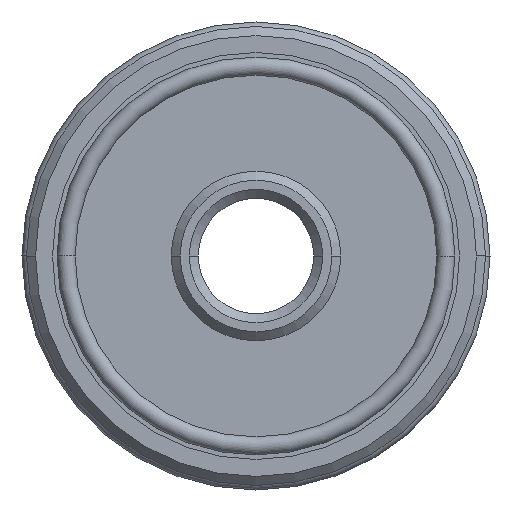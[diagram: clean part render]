
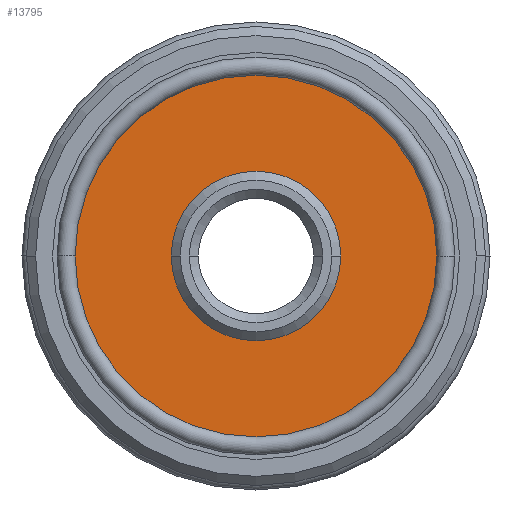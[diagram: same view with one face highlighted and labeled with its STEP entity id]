
A CAD part, left-side view. The second image highlights one B-rep face of the part: STEP entity #13795.
In plain terms, the highlighted planar face has unit normal (-1, 0, 0).
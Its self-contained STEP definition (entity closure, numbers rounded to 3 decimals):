
#13527 = EDGE_CURVE ( 'NONE', #13542, #13528, #19315, .T. ) ;
#13528 = VERTEX_POINT ( 'NONE', #19310 ) ;
#13542 = VERTEX_POINT ( 'NONE', #19340 ) ;
#13795 = ADVANCED_FACE ( 'NONE', ( #19962, #20008 ), #20007, .T. ) ;
#13796 = EDGE_LOOP ( 'NONE', ( #13797, #13852 ) ) ;
#13797 = ORIENTED_EDGE ( 'NONE', *, *, #13851, .F. ) ;
#13851 = EDGE_CURVE ( 'NONE', #13528, #13542, #20130, .T. ) ;
#13852 = ORIENTED_EDGE ( 'NONE', *, *, #13527, .F. ) ;
#13853 = EDGE_LOOP ( 'NONE', ( #13854, #13855 ) ) ;
#13854 = ORIENTED_EDGE ( 'NONE', *, *, #13957, .T. ) ;
#13855 = ORIENTED_EDGE ( 'NONE', *, *, #13856, .T. ) ;
#13856 = EDGE_CURVE ( 'NONE', #13944, #13958, #20126, .T. ) ;
#13944 = VERTEX_POINT ( 'NONE', #20497 ) ;
#13957 = EDGE_CURVE ( 'NONE', #13958, #13944, #20530, .T. ) ;
#13958 = VERTEX_POINT ( 'NONE', #20526 ) ;
#19310 = CARTESIAN_POINT ( 'NONE',  ( 0., 9.375, 0. ) ) ;
#19311 = DIRECTION ( 'NONE',  ( 0., -1., 0. ) ) ;
#19312 = DIRECTION ( 'NONE',  ( -1., 0., 0. ) ) ;
#19313 = CARTESIAN_POINT ( 'NONE',  ( 0., 0., 0. ) ) ;
#19314 = AXIS2_PLACEMENT_3D ( 'NONE', #19313, #19312, #19311 ) ;
#19315 = CIRCLE ( 'NONE', #19314, 9.375 ) ;
#19340 = CARTESIAN_POINT ( 'NONE',  ( 0., -9.375, 0. ) ) ;
#19962 = FACE_BOUND ( 'NONE', #13796, .T. ) ;
#20003 = DIRECTION ( 'NONE',  ( 0., -1., 0. ) ) ;
#20004 = DIRECTION ( 'NONE',  ( -1., 0., 0. ) ) ;
#20005 = CARTESIAN_POINT ( 'NONE',  ( 0., 0., 0. ) ) ;
#20006 = AXIS2_PLACEMENT_3D ( 'NONE', #20005, #20004, #20003 ) ;
#20007 = PLANE ( 'NONE',  #20006 ) ;
#20008 = FACE_OUTER_BOUND ( 'NONE', #13853, .T. ) ;
#20094 = CARTESIAN_POINT ( 'NONE',  ( 0., 0., 0. ) ) ;
#20123 = DIRECTION ( 'NONE',  ( 0., -1., 0. ) ) ;
#20124 = DIRECTION ( 'NONE',  ( -1., 0., 0. ) ) ;
#20125 = AXIS2_PLACEMENT_3D ( 'NONE', #20131, #20124, #20123 ) ;
#20126 = CIRCLE ( 'NONE', #20125, 20. ) ;
#20127 = DIRECTION ( 'NONE',  ( 0., -1., 0. ) ) ;
#20128 = DIRECTION ( 'NONE',  ( -1., 0., 0. ) ) ;
#20129 = AXIS2_PLACEMENT_3D ( 'NONE', #20094, #20128, #20127 ) ;
#20130 = CIRCLE ( 'NONE', #20129, 9.375 ) ;
#20131 = CARTESIAN_POINT ( 'NONE',  ( 0., 0., 0. ) ) ;
#20497 = CARTESIAN_POINT ( 'NONE',  ( 0., 20., 0. ) ) ;
#20526 = CARTESIAN_POINT ( 'NONE',  ( 0., -20., 0. ) ) ;
#20527 = DIRECTION ( 'NONE',  ( 0., -1., 0. ) ) ;
#20528 = DIRECTION ( 'NONE',  ( -1., 0., 0. ) ) ;
#20529 = AXIS2_PLACEMENT_3D ( 'NONE', #20535, #20528, #20527 ) ;
#20530 = CIRCLE ( 'NONE', #20529, 20. ) ;
#20535 = CARTESIAN_POINT ( 'NONE',  ( 0., 0., 0. ) ) ;
